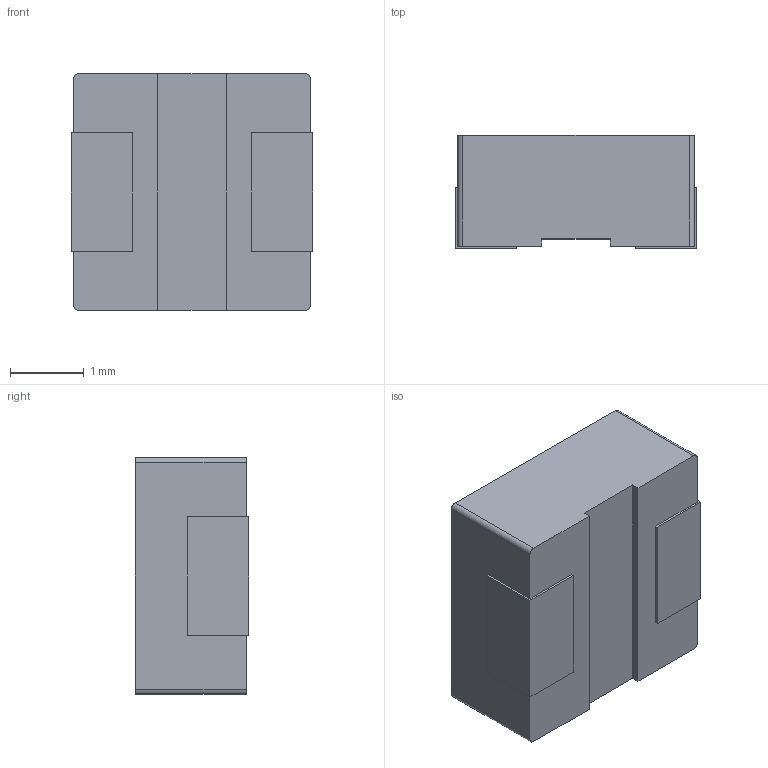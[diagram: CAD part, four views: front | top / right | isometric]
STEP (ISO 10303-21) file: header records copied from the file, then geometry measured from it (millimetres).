
FILE_DESCRIPTION (( 'STEP AP203' ), '1' );
FILE_NAME ('0315.STEP', '2025-07-17T04:41:21', ( 'user' ), ( '' ), 'SwSTEP 2.0', 'SolidWorks 2018', '' );
FILE_SCHEMA (( 'CONFIG_CONTROL_DESIGN' ));
Length unit declared in the file: millimetre
Products named in the file (1): 0315
Bounding box: 3.26 x 1.53 x 3.2 mm (x, y, z)
Volume: 15.2 mm3; surface area: 40.5 mm2
Topology: 1 solids, 1 shells, 26 faces, 72 edges, 48 vertices
Faces by surface type: plane 22, cylinder 4
Entity records: 901 total; most frequent: CARTESIAN_POINT 147, ORIENTED_EDGE 144, DIRECTION 134, EDGE_CURVE 72, VECTOR 64, LINE 64, VERTEX_POINT 48, AXIS2_PLACEMENT_3D 35
